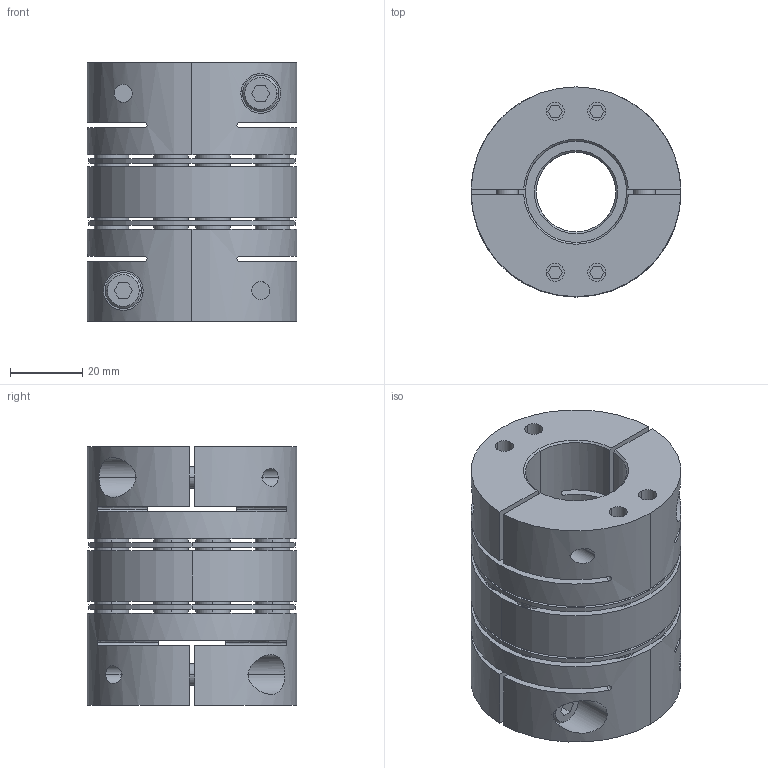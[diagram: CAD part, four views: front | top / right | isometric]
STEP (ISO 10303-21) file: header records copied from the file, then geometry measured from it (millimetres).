
FILE_DESCRIPTION((''),'2;1');
FILE_NAME('TAD-58C-22×28.stp','2022-11-13T22:06:26',(''),(''),'AutoCAD STEP 2000i','AutoCAD 2000i',', , ');
FILE_SCHEMA(('CONFIG_CONTROL_DESIGN'));
Length unit declared in the file: millimetre
Products named in the file (8): TAD-58C-22×22; 忣兜1; TA58C-22-2; CAP-M6×20; TA58C-22; TA58C-12-2; TA58C-12; TAS-58C-ITA
Assembly tree (10 placements, depth 3):
  TAD-58C-22×22
    忣兜1
    TA58C-22-2
      CAP-M6×20
    TA58C-22
      CAP-M6×20
    TA58C-12-2
      CAP-M6×20
    TA58C-12
      CAP-M6×20
    TAS-58C-ITA
Bounding box: 58 x 58 x 71.5 mm (x, y, z)
Volume: 125926.2 mm3; surface area: 54347.7 mm2
Topology: 1 solids, 5 shells, 568 faces, 1370 edges, 954 vertices
Faces by surface type: plane 252, cylinder 228, cone 72, bspline 16
Entity records: 18721 total; most frequent: CARTESIAN_POINT 4821, DIRECTION 3022, ORIENTED_EDGE 2640, EDGE_CURVE 1320, AXIS2_PLACEMENT_3D 1145, VERTEX_POINT 860, VECTOR 732, LINE 732
